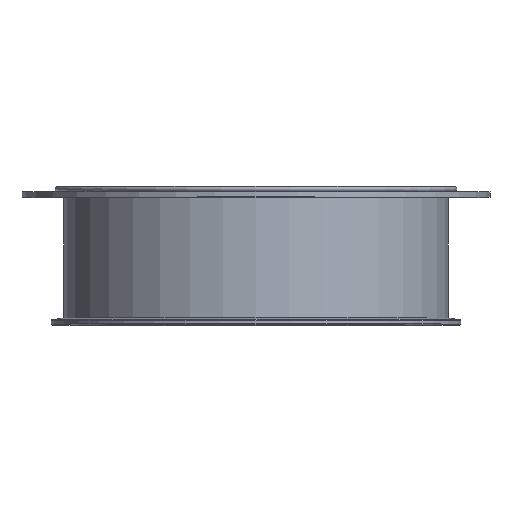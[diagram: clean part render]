
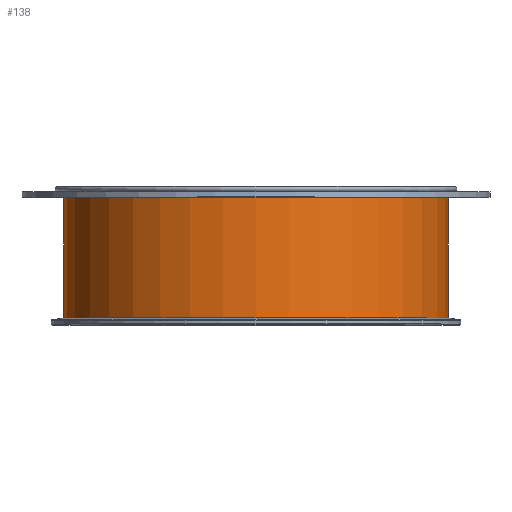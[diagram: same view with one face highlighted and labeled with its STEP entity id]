
A CAD part, top view. The second image highlights one B-rep face of the part: STEP entity #138.
In plain terms, the highlighted cylindrical face has radius 140.8 mm (diameter 281.6 mm), a full revolution.
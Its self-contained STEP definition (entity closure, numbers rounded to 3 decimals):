
#117=CYLINDRICAL_SURFACE('',#528,140.8);
#138=ADVANCED_FACE('',(#205,#206),#117,.T.);
#205=FACE_BOUND('',#277,.T.);
#206=FACE_BOUND('',#278,.T.);
#277=EDGE_LOOP('',(#349));
#278=EDGE_LOOP('',(#350));
#349=ORIENTED_EDGE('',*,*,#430,.F.);
#350=ORIENTED_EDGE('',*,*,#438,.F.);
#394=VERTEX_POINT('',#732);
#402=VERTEX_POINT('',#753);
#430=EDGE_CURVE('',#394,#394,#466,.T.);
#438=EDGE_CURVE('',#402,#402,#474,.T.);
#466=CIRCLE('',#513,140.8);
#474=CIRCLE('',#526,140.8);
#513=AXIS2_PLACEMENT_3D('',#731,#608,#609);
#526=AXIS2_PLACEMENT_3D('',#752,#634,#635);
#528=AXIS2_PLACEMENT_3D('',#755,#638,#639);
#608=DIRECTION('',(0.,-1.,0.));
#609=DIRECTION('',(-1.,0.,0.));
#634=DIRECTION('',(0.,1.,0.));
#635=DIRECTION('',(1.,0.,0.));
#638=DIRECTION('',(0.,1.,0.));
#639=DIRECTION('',(1.,0.,0.));
#731=CARTESIAN_POINT('',(0.,5.196,0.));
#732=CARTESIAN_POINT('',(-140.8,5.196,0.));
#752=CARTESIAN_POINT('',(0.,99.2,0.));
#753=CARTESIAN_POINT('',(140.8,99.2,0.));
#755=CARTESIAN_POINT('',(0.,-192.076,0.));
